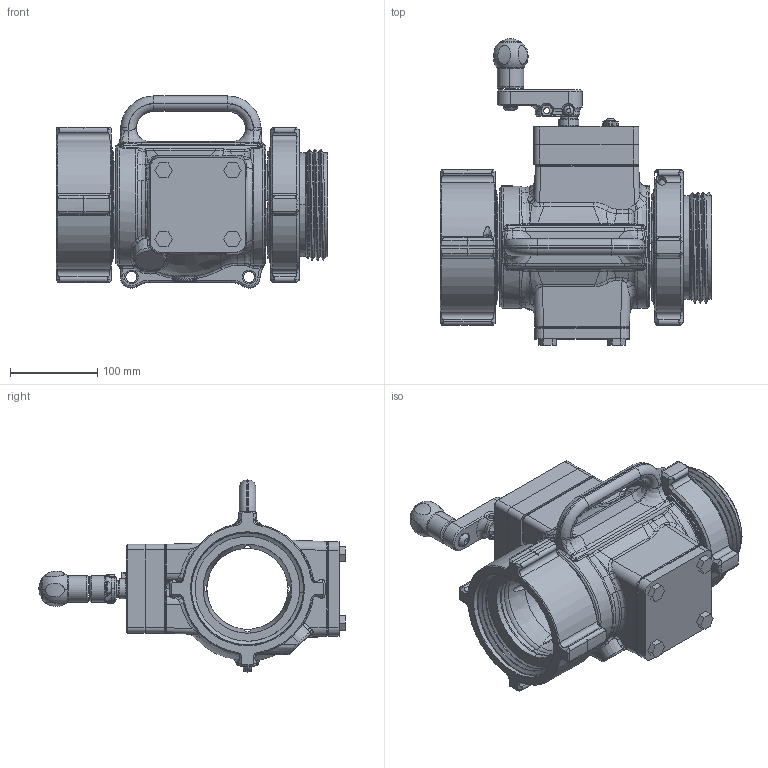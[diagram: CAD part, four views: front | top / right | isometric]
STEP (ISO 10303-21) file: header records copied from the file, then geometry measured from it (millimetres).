
FILE_DESCRIPTION (( 'STEP AP203' ), '1' );
FILE_NAME ('AN3P7P02.STEP', '2014-06-16T18:50:03', ( '' ), ( '' ), 'SwSTEP 2.0', 'SolidWorks 2014', '' );
FILE_SCHEMA (( 'CONFIG_CONTROL_DESIGN' ));
Products named in the file (1): AN3P7P02
Bounding box: 310.77 x 350.22 x 219.68 mm (x, y, z)
Surface area: 387868.6 mm2 (no closed solid volume)
Topology: 0 solids, 46 shells, 1229 faces, 3495 edges, 2256 vertices
Faces by surface type: cylinder 301, bspline 269, plane 262, cone 236, torus 148, sphere 13
Entity records: 58267 total; most frequent: CARTESIAN_POINT 29339, ORIENTED_EDGE 6258, DIRECTION 5441, EDGE_CURVE 3481, VERTEX_POINT 2254, AXIS2_PLACEMENT_3D 2193, EDGE_LOOP 1301, CIRCLE 1232
